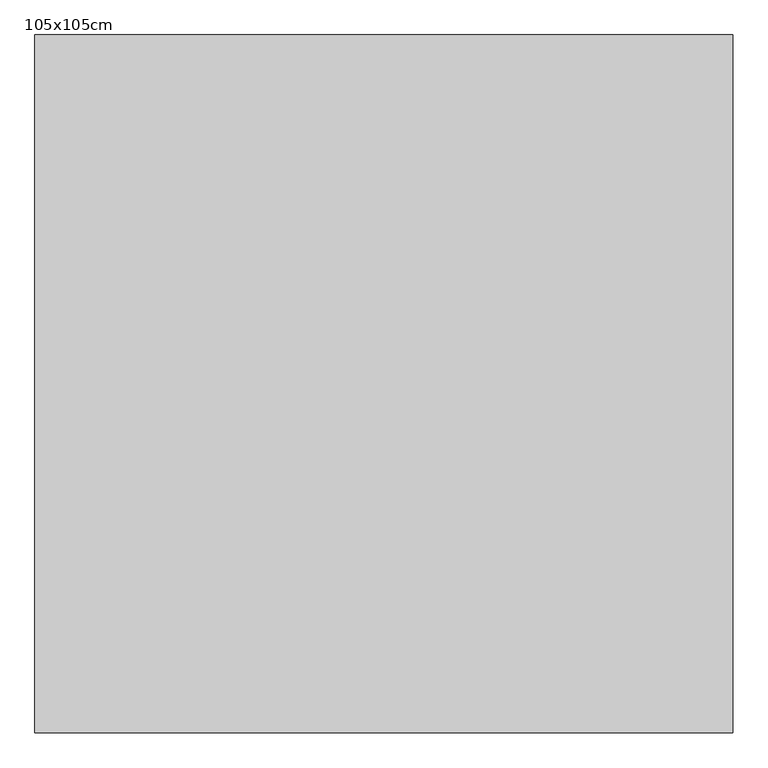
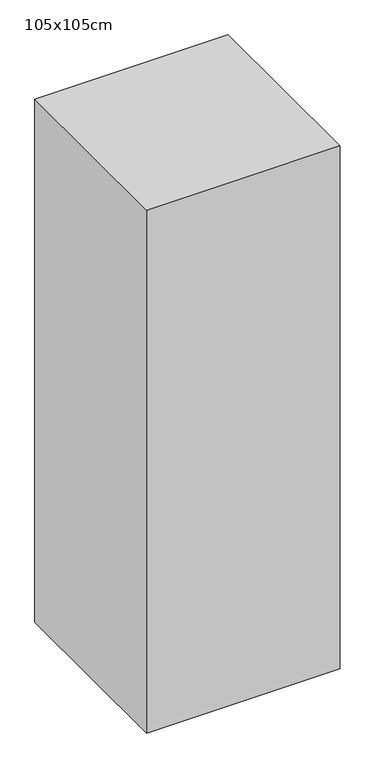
"""IFC4 building model written with IfcOpenShell, lengths in millimetres: column geometry, 混凝土柱-矩形 : 105x105cm."""

from ifc_helpers import new_model, si_unit, origin, origin_with_axes, place, context, project, spatial, polyline, outline, extrude, source, transform, mapped, element, save


def column_105x105cm_051beba1(model_context):
    return source(origin(), model_context, "Body", "SweptSolid", [
        extrude(outline(polyline([(525.0, 525.0), (525.0, -525.0), (-525.0, -525.0), (-525.0, 525.0), (525.0, 525.0)])), origin_with_axes(), (0.0, 0.0, 1.0), 3000.0),
    ])


if __name__ == "__main__":
    model = new_model("IFC4")
    model_context = context("Model", 3, world=origin())
    ifc_project = project(units=[si_unit("LENGTHUNIT", "METRE", prefix="MILLI")], contexts=[model_context])
    site = spatial("IfcSite", under=ifc_project)
    building = spatial("IfcBuilding", under=site)
    placement = place(None, origin())
    column_105x105cm_shape = column_105x105cm_051beba1(model_context)
    element("IfcColumn", 1, ObjectType="混凝土柱-矩形 : 105x105cm", at=placement, inside=building, context=model_context, shape_type="MappedRepresentation", body=[
        mapped(column_105x105cm_shape, transform((0.0, 0.0, 0.0), x_axis=(1.0, 0.0, 0.0), y_axis=(0.0, 1.0, 0.0), z_axis=(0.0, 0.0, 1.0))),
    ])
    save(model, "model.ifc")
